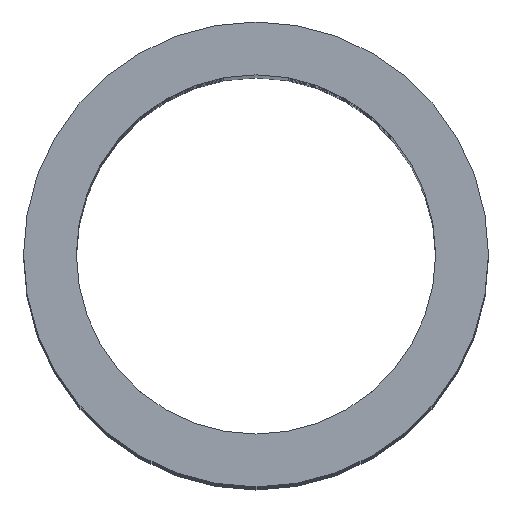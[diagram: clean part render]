
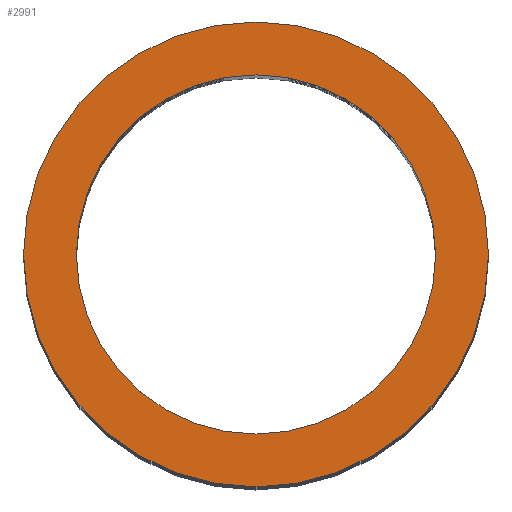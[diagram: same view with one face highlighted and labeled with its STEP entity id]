
A CAD part, top view. The second image highlights one B-rep face of the part: STEP entity #2991.
In plain terms, the highlighted planar face has unit normal (0, 0, 1).
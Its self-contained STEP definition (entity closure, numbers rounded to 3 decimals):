
#2795=CARTESIAN_POINT('Vertex',(-5.5,0.,42.)) ;
#2798=CARTESIAN_POINT('Axis2P3D Location',(0.,0.,42.)) ;
#2802=CARTESIAN_POINT('Vertex',(5.5,0.,42.)) ;
#2817=CARTESIAN_POINT('Axis2P3D Location',(0.,0.,42.)) ;
#2876=CARTESIAN_POINT('Axis2P3D Location',(0.,0.,42.)) ;
#2880=CARTESIAN_POINT('Vertex',(4.25,0.,42.)) ;
#2882=CARTESIAN_POINT('Vertex',(-4.25,0.,42.)) ;
#2934=CARTESIAN_POINT('Axis2P3D Location',(0.,0.,42.)) ;
#2978=CARTESIAN_POINT('Axis2P3D Location',(0.,0.,42.)) ;
#2799=DIRECTION('Axis2P3D Direction',(0.,0.,1.)) ;
#2818=DIRECTION('Axis2P3D Direction',(0.,0.,1.)) ;
#2877=DIRECTION('Axis2P3D Direction',(0.,0.,1.)) ;
#2935=DIRECTION('Axis2P3D Direction',(0.,0.,1.)) ;
#2979=DIRECTION('Axis2P3D Direction',(0.,0.,1.)) ;
#2980=DIRECTION('Axis2P3D XDirection',(1.,0.,0.)) ;
#2800=AXIS2_PLACEMENT_3D('Circle Axis2P3D',#2798,#2799,$) ;
#2819=AXIS2_PLACEMENT_3D('Circle Axis2P3D',#2817,#2818,$) ;
#2878=AXIS2_PLACEMENT_3D('Circle Axis2P3D',#2876,#2877,$) ;
#2936=AXIS2_PLACEMENT_3D('Circle Axis2P3D',#2934,#2935,$) ;
#2981=AXIS2_PLACEMENT_3D('Plane Axis2P3D',#2978,#2979,#2980) ;
#2984=ORIENTED_EDGE('',*,*,#2804,.T.) ;
#2985=ORIENTED_EDGE('',*,*,#2821,.T.) ;
#2988=ORIENTED_EDGE('',*,*,#2938,.F.) ;
#2989=ORIENTED_EDGE('',*,*,#2884,.F.) ;
#2990=FACE_BOUND('',#2987,.T.) ;
#2991=ADVANCED_FACE('\X2\96F64EF651E04F554F53\X0\',(#2986,#2990),#2982,.T.) ;
#2801=CIRCLE('generated circle',#2800,5.5) ;
#2820=CIRCLE('generated circle',#2819,5.5) ;
#2879=CIRCLE('generated circle',#2878,4.25) ;
#2937=CIRCLE('generated circle',#2936,4.25) ;
#2804=EDGE_CURVE('',#2803,#2796,#2801,.T.) ;
#2821=EDGE_CURVE('',#2796,#2803,#2820,.T.) ;
#2884=EDGE_CURVE('',#2881,#2883,#2879,.T.) ;
#2938=EDGE_CURVE('',#2883,#2881,#2937,.T.) ;
#2983=EDGE_LOOP('',(#2984,#2985)) ;
#2987=EDGE_LOOP('',(#2988,#2989)) ;
#2986=FACE_OUTER_BOUND('',#2983,.T.) ;
#2982=PLANE('Plane',#2981) ;
#2796=VERTEX_POINT('',#2795) ;
#2803=VERTEX_POINT('',#2802) ;
#2881=VERTEX_POINT('',#2880) ;
#2883=VERTEX_POINT('',#2882) ;
